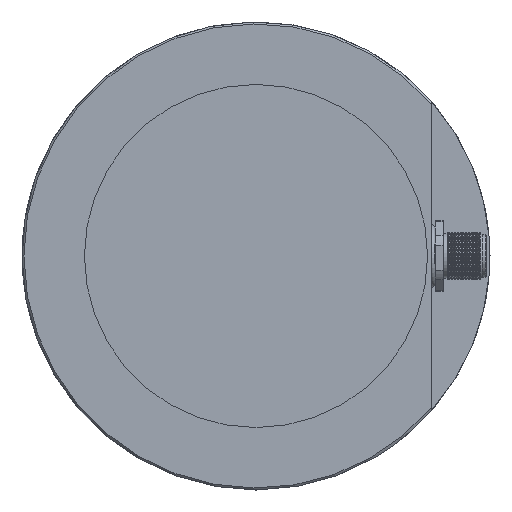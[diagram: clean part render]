
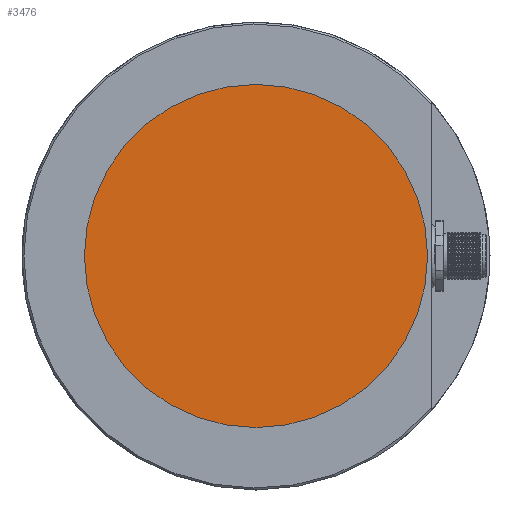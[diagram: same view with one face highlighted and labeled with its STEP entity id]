
A CAD part, left-side view. The second image highlights one B-rep face of the part: STEP entity #3476.
In plain terms, the highlighted planar face has unit normal (-1, 0, 0).
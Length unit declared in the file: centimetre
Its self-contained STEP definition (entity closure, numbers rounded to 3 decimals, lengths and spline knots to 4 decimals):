
#432=PLANE('',#3749);
#830=CIRCLE('',#3748,4.4);
#999=EDGE_CURVE('',#2786,#2786,#830,.T.);
#1473=ORIENTED_EDGE('',*,*,#999,.T.);
#2403=EDGE_LOOP('',(#1473));
#2786=VERTEX_POINT('',#4130);
#3108=FACE_BOUND('',#2403,.T.);
#3476=ADVANCED_FACE('',(#3108),#432,.F.);
#3748=AXIS2_PLACEMENT_3D('',#4129,#5907,#5908);
#3749=AXIS2_PLACEMENT_3D('',#4131,#5909,$);
#4129=CARTESIAN_POINT('',(-2.4,0.,0.));
#4130=CARTESIAN_POINT('',(-2.4,0.,-4.4));
#4131=CARTESIAN_POINT('',(-2.4,0.,0.));
#5907=DIRECTION('',(-1.,0.,0.));
#5908=DIRECTION('',(0.,0.,-4.4));
#5909=DIRECTION('',(1.,0.,0.));
